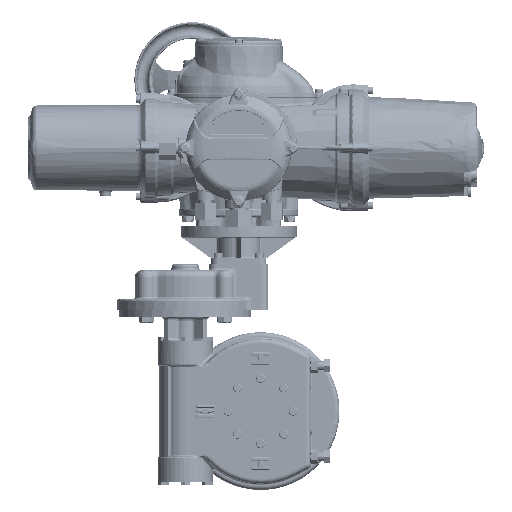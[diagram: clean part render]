
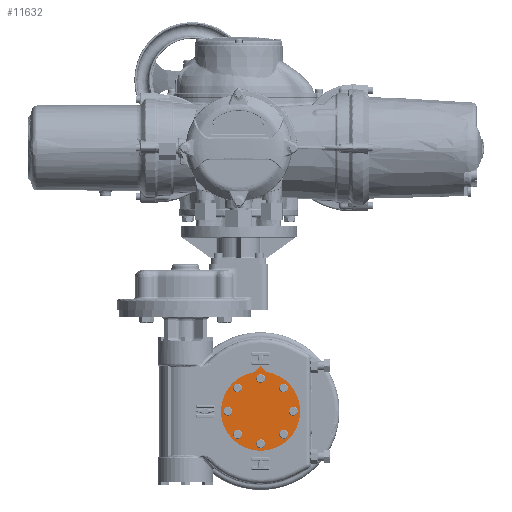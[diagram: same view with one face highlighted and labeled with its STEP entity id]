
A CAD part, front view. The second image highlights one B-rep face of the part: STEP entity #11632.
In plain terms, the highlighted planar face has unit normal (0, -1, 0).
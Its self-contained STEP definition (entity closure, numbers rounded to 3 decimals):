
#11632 = ADVANCED_FACE( '', ( #28918, #28919, #28920, #28921, #28922, #28923, #28924, #28925, #28926 ), #28927, .T. );
#28918 = FACE_BOUND( '', #130553, .T. );
#28919 = FACE_BOUND( '', #130554, .T. );
#28920 = FACE_BOUND( '', #130555, .T. );
#28921 = FACE_BOUND( '', #130556, .T. );
#28922 = FACE_BOUND( '', #130557, .T. );
#28923 = FACE_BOUND( '', #130558, .T. );
#28924 = FACE_BOUND( '', #130559, .T. );
#28925 = FACE_BOUND( '', #130560, .T. );
#28926 = FACE_OUTER_BOUND( '', #130561, .T. );
#28927 = PLANE( '', #130562 );
#130553 = EDGE_LOOP( '', ( #388206 ) );
#130554 = EDGE_LOOP( '', ( #388207 ) );
#130555 = EDGE_LOOP( '', ( #388208 ) );
#130556 = EDGE_LOOP( '', ( #388209 ) );
#130557 = EDGE_LOOP( '', ( #388210 ) );
#130558 = EDGE_LOOP( '', ( #388211 ) );
#130559 = EDGE_LOOP( '', ( #388212 ) );
#130560 = EDGE_LOOP( '', ( #388213 ) );
#130561 = EDGE_LOOP( '', ( #388214, #388215, #388216 ) );
#130562 = AXIS2_PLACEMENT_3D( '', #388217, #388218, #388219 );
#388206 = ORIENTED_EDGE( '', *, *, #443192, .F. );
#388207 = ORIENTED_EDGE( '', *, *, #443193, .F. );
#388208 = ORIENTED_EDGE( '', *, *, #443194, .F. );
#388209 = ORIENTED_EDGE( '', *, *, #441020, .F. );
#388210 = ORIENTED_EDGE( '', *, *, #434811, .F. );
#388211 = ORIENTED_EDGE( '', *, *, #443195, .F. );
#388212 = ORIENTED_EDGE( '', *, *, #443196, .F. );
#388213 = ORIENTED_EDGE( '', *, *, #443197, .F. );
#388214 = ORIENTED_EDGE( '', *, *, #443198, .T. );
#388215 = ORIENTED_EDGE( '', *, *, #435246, .T. );
#388216 = ORIENTED_EDGE( '', *, *, #440568, .T. );
#388217 = CARTESIAN_POINT( '', ( 39.495, -35.475, -475.665 ) );
#388218 = DIRECTION( '', ( 0., -1., 0. ) );
#388219 = DIRECTION( '', ( 0., 0., 1. ) );
#434811 = EDGE_CURVE( '', #460985, #460985, #460986, .T. );
#435246 = EDGE_CURVE( '', #461765, #461763, #461766, .T. );
#440568 = EDGE_CURVE( '', #461763, #470603, #470605, .T. );
#441020 = EDGE_CURVE( '', #471302, #471302, #471303, .T. );
#443192 = EDGE_CURVE( '', #474636, #474636, #474637, .T. );
#443193 = EDGE_CURVE( '', #474638, #474638, #474639, .T. );
#443194 = EDGE_CURVE( '', #474640, #474640, #474641, .T. );
#443195 = EDGE_CURVE( '', #474642, #474642, #474643, .T. );
#443196 = EDGE_CURVE( '', #474644, #474644, #474645, .T. );
#443197 = EDGE_CURVE( '', #474646, #474646, #474647, .T. );
#443198 = EDGE_CURVE( '', #470603, #461765, #474648, .T. );
#460985 = VERTEX_POINT( '', #507253 );
#460986 = CIRCLE( '', #507254, 8. );
#461763 = VERTEX_POINT( '', #512433 );
#461765 = VERTEX_POINT( '', #512436 );
#461766 = LINE( '', #512437, #512438 );
#470603 = VERTEX_POINT( '', #556305 );
#470605 = LINE( '', #556308, #556309 );
#471302 = VERTEX_POINT( '', #560127 );
#471303 = CIRCLE( '', #560128, 8. );
#474636 = VERTEX_POINT( '', #579142 );
#474637 = CIRCLE( '', #579143, 8. );
#474638 = VERTEX_POINT( '', #579144 );
#474639 = CIRCLE( '', #579145, 8. );
#474640 = VERTEX_POINT( '', #579146 );
#474641 = CIRCLE( '', #579147, 8. );
#474642 = VERTEX_POINT( '', #579148 );
#474643 = CIRCLE( '', #579149, 8. );
#474644 = VERTEX_POINT( '', #579150 );
#474645 = CIRCLE( '', #579151, 8. );
#474646 = VERTEX_POINT( '', #579152 );
#474647 = CIRCLE( '', #579153, 8. );
#474648 = CIRCLE( '', #579154, 71.5 );
#507253 = CARTESIAN_POINT( '', ( 47.495, -35.475, -534.665 ) );
#507254 = AXIS2_PLACEMENT_3D( '', #676852, #676853, #676854 );
#512433 = CARTESIAN_POINT( '', ( 39.495, -35.475, -394.165 ) );
#512436 = CARTESIAN_POINT( '', ( 50.319, -35.475, -404.989 ) );
#512437 = CARTESIAN_POINT( '', ( 50.319, -35.475, -404.989 ) );
#512438 = VECTOR( '', #677350, 1000. );
#556305 = CARTESIAN_POINT( '', ( 28.671, -35.475, -404.989 ) );
#556308 = CARTESIAN_POINT( '', ( 39.495, -35.475, -394.165 ) );
#556309 = VECTOR( '', #682933, 1000. );
#560127 = CARTESIAN_POINT( '', ( 5.776, -35.475, -517.384 ) );
#560128 = AXIS2_PLACEMENT_3D( '', #683417, #683418, #683419 );
#579142 = CARTESIAN_POINT( '', ( 5.776, -35.475, -433.946 ) );
#579143 = AXIS2_PLACEMENT_3D( '', #685727, #685728, #685729 );
#579144 = CARTESIAN_POINT( '', ( 89.214, -35.475, -433.946 ) );
#579145 = AXIS2_PLACEMENT_3D( '', #685730, #685731, #685732 );
#579146 = CARTESIAN_POINT( '', ( 89.214, -35.475, -517.384 ) );
#579147 = AXIS2_PLACEMENT_3D( '', #685733, #685734, #685735 );
#579148 = CARTESIAN_POINT( '', ( 106.495, -35.475, -475.665 ) );
#579149 = AXIS2_PLACEMENT_3D( '', #685736, #685737, #685738 );
#579150 = CARTESIAN_POINT( '', ( 47.495, -35.475, -416.665 ) );
#579151 = AXIS2_PLACEMENT_3D( '', #685739, #685740, #685741 );
#579152 = CARTESIAN_POINT( '', ( -11.505, -35.475, -475.665 ) );
#579153 = AXIS2_PLACEMENT_3D( '', #685742, #685743, #685744 );
#579154 = AXIS2_PLACEMENT_3D( '', #685745, #685746, #685747 );
#676852 = CARTESIAN_POINT( '', ( 39.495, -35.475, -534.665 ) );
#676853 = DIRECTION( '', ( 0., -1., 0. ) );
#676854 = DIRECTION( '', ( 1., 0., 0. ) );
#677350 = DIRECTION( '', ( -0.707, 0., 0.707 ) );
#682933 = DIRECTION( '', ( -0.707, 0., -0.707 ) );
#683417 = CARTESIAN_POINT( '', ( -2.224, -35.475, -517.384 ) );
#683418 = DIRECTION( '', ( 0., -1., 0. ) );
#683419 = DIRECTION( '', ( 1., 0., 0. ) );
#685727 = CARTESIAN_POINT( '', ( -2.224, -35.475, -433.946 ) );
#685728 = DIRECTION( '', ( 0., -1., 0. ) );
#685729 = DIRECTION( '', ( 1., 0., 0. ) );
#685730 = CARTESIAN_POINT( '', ( 81.214, -35.475, -433.946 ) );
#685731 = DIRECTION( '', ( 0., -1., 0. ) );
#685732 = DIRECTION( '', ( 1., 0., 0. ) );
#685733 = CARTESIAN_POINT( '', ( 81.214, -35.475, -517.384 ) );
#685734 = DIRECTION( '', ( 0., -1., 0. ) );
#685735 = DIRECTION( '', ( 1., 0., 0. ) );
#685736 = CARTESIAN_POINT( '', ( 98.495, -35.475, -475.665 ) );
#685737 = DIRECTION( '', ( 0., -1., 0. ) );
#685738 = DIRECTION( '', ( 1., 0., 0. ) );
#685739 = CARTESIAN_POINT( '', ( 39.495, -35.475, -416.665 ) );
#685740 = DIRECTION( '', ( 0., -1., 0. ) );
#685741 = DIRECTION( '', ( 1., 0., 0. ) );
#685742 = CARTESIAN_POINT( '', ( -19.505, -35.475, -475.665 ) );
#685743 = DIRECTION( '', ( 0., -1., 0. ) );
#685744 = DIRECTION( '', ( 1., 0., 0. ) );
#685745 = CARTESIAN_POINT( '', ( 39.495, -35.475, -475.665 ) );
#685746 = DIRECTION( '', ( 0., -1., 0. ) );
#685747 = DIRECTION( '', ( 0., 0., 1. ) );
